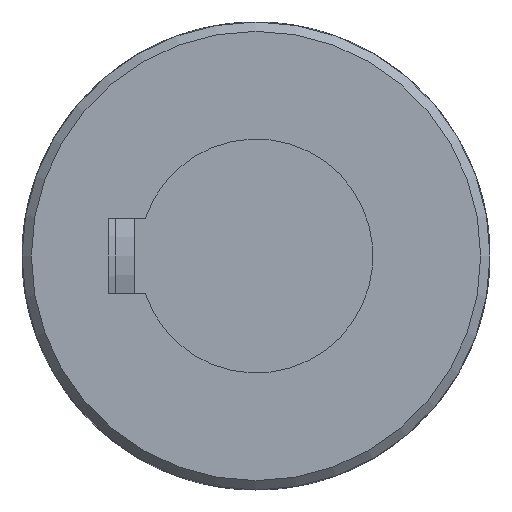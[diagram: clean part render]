
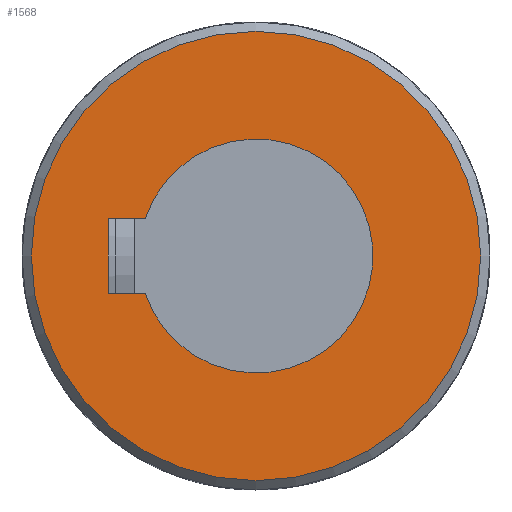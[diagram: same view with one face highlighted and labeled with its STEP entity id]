
A CAD part, front view. The second image highlights one B-rep face of the part: STEP entity #1568.
In plain terms, the highlighted planar face has unit normal (0, -1, 0).
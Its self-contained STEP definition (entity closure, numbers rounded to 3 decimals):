
#110=LINE('',#3027,#167);
#114=LINE('',#3054,#171);
#116=LINE('',#3062,#173);
#167=VECTOR('',#2045,3.957);
#171=VECTOR('',#2057,8.);
#173=VECTOR('',#2061,3.957);
#223=PLANE('',#1727);
#359=FACE_BOUND('',#573,.T.);
#439=FACE_OUTER_BOUND('',#572,.T.);
#572=EDGE_LOOP('',(#1378));
#573=EDGE_LOOP('',(#1379,#1380,#1381,#1382));
#652=CIRCLE('',#1714,12.5);
#658=CIRCLE('',#1725,24.);
#783=VERTEX_POINT('',#3024);
#784=VERTEX_POINT('',#3026);
#787=VERTEX_POINT('',#3036);
#789=VERTEX_POINT('',#3052);
#798=VERTEX_POINT('',#3139);
#977=EDGE_CURVE('',#784,#783,#110,.T.);
#981=EDGE_CURVE('',#787,#784,#652,.T.);
#985=EDGE_CURVE('',#783,#789,#114,.T.);
#988=EDGE_CURVE('',#789,#787,#116,.T.);
#998=EDGE_CURVE('',#798,#798,#658,.T.);
#1378=ORIENTED_EDGE('',*,*,#998,.F.);
#1379=ORIENTED_EDGE('',*,*,#977,.T.);
#1380=ORIENTED_EDGE('',*,*,#985,.T.);
#1381=ORIENTED_EDGE('',*,*,#988,.T.);
#1382=ORIENTED_EDGE('',*,*,#981,.T.);
#1568=ADVANCED_FACE('',(#439,#359),#223,.F.);
#1714=AXIS2_PLACEMENT_3D('',#3037,#2051,#2052);
#1725=AXIS2_PLACEMENT_3D('',#3140,#2078,#2079);
#1727=AXIS2_PLACEMENT_3D('',#3348,#2086,#2087);
#2045=DIRECTION('',(0.,0.,-1.));
#2051=DIRECTION('center_axis',(0.,1.,0.));
#2052=DIRECTION('ref_axis',(-0.32,0.,0.947));
#2057=DIRECTION('',(-1.,0.,0.));
#2061=DIRECTION('',(0.,0.,1.));
#2078=DIRECTION('center_axis',(0.,1.,0.));
#2079=DIRECTION('ref_axis',(1.,0.,0.));
#2086=DIRECTION('center_axis',(0.,1.,0.));
#2087=DIRECTION('ref_axis',(0.,0.,1.));
#3024=CARTESIAN_POINT('',(4.,-66.5,-15.8));
#3026=CARTESIAN_POINT('',(4.,-66.5,-11.843));
#3027=CARTESIAN_POINT('',(4.,-66.5,-5.921));
#3036=CARTESIAN_POINT('',(-4.,-66.5,-11.843));
#3037=CARTESIAN_POINT('Origin',(0.,-66.5,0.));
#3052=CARTESIAN_POINT('',(-4.,-66.5,-15.8));
#3054=CARTESIAN_POINT('',(2.,-66.5,-15.8));
#3062=CARTESIAN_POINT('',(-4.,-66.5,-7.9));
#3139=CARTESIAN_POINT('',(-24.,-66.5,0.));
#3140=CARTESIAN_POINT('Origin',(0.,-66.5,0.));
#3348=CARTESIAN_POINT('Origin',(0.,-66.5,0.));
